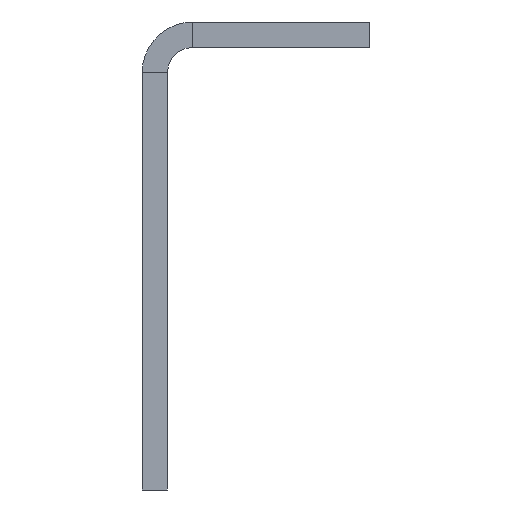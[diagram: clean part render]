
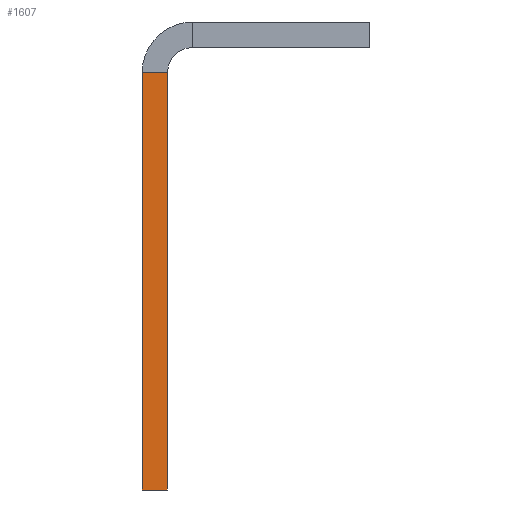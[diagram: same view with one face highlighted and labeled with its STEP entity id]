
A CAD part, left-side view. The second image highlights one B-rep face of the part: STEP entity #1607.
In plain terms, the highlighted planar face has unit normal (-1, 0, 0).
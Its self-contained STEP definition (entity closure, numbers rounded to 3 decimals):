
#12 = EDGE_CURVE ( 'NONE', #1645, #3033, #1158, .T. ) ;
#30 = CARTESIAN_POINT ( 'NONE',  ( -976., 16., 0. ) ) ;
#249 = EDGE_CURVE ( 'NONE', #1645, #4149, #4546, .T. ) ;
#349 = ORIENTED_EDGE ( 'NONE', *, *, #4187, .T. ) ;
#378 = VERTEX_POINT ( 'NONE', #1347 ) ;
#417 = DIRECTION ( 'NONE',  ( 0., 0., -1. ) ) ;
#428 = EDGE_LOOP ( 'NONE', ( #4280, #564, #718, #349 ) ) ;
#467 = DIRECTION ( 'NONE',  ( 0., 1., 0. ) ) ;
#564 = ORIENTED_EDGE ( 'NONE', *, *, #249, .T. ) ;
#679 = LINE ( 'NONE', #2185, #2815 ) ;
#718 = ORIENTED_EDGE ( 'NONE', *, *, #2404, .T. ) ;
#1155 = DIRECTION ( 'NONE',  ( 0., 0., -1. ) ) ;
#1158 = LINE ( 'NONE', #30, #4729 ) ;
#1178 = CARTESIAN_POINT ( 'NONE',  ( -976., 18., -37. ) ) ;
#1347 = CARTESIAN_POINT ( 'NONE',  ( -976., 18., -37. ) ) ;
#1470 = CARTESIAN_POINT ( 'NONE',  ( -976., 18., -4. ) ) ;
#1505 = CARTESIAN_POINT ( 'NONE',  ( -976., 14., -4. ) ) ;
#1607 = ADVANCED_FACE ( 'NONE', ( #2978 ), #3358, .F. ) ;
#1645 = VERTEX_POINT ( 'NONE', #1764 ) ;
#1764 = CARTESIAN_POINT ( 'NONE',  ( -976., 16., -4. ) ) ;
#2047 = VECTOR ( 'NONE', #3427, 1000. ) ;
#2185 = CARTESIAN_POINT ( 'NONE',  ( -976., 18., 0. ) ) ;
#2347 = VECTOR ( 'NONE', #467, 1000. ) ;
#2404 = EDGE_CURVE ( 'NONE', #4149, #378, #679, .T. ) ;
#2588 = DIRECTION ( 'NONE',  ( 0., 0., -1. ) ) ;
#2807 = AXIS2_PLACEMENT_3D ( 'NONE', #1505, #4450, #1155 ) ;
#2815 = VECTOR ( 'NONE', #2588, 1000. ) ;
#2978 = FACE_OUTER_BOUND ( 'NONE', #428, .T. ) ;
#3033 = VERTEX_POINT ( 'NONE', #3728 ) ;
#3358 = PLANE ( 'NONE',  #2807 ) ;
#3427 = DIRECTION ( 'NONE',  ( 0., -1., 0. ) ) ;
#3728 = CARTESIAN_POINT ( 'NONE',  ( -976., 16., -37. ) ) ;
#3783 = LINE ( 'NONE', #1178, #2047 ) ;
#3836 = CARTESIAN_POINT ( 'NONE',  ( -976., 16., -4. ) ) ;
#4149 = VERTEX_POINT ( 'NONE', #1470 ) ;
#4187 = EDGE_CURVE ( 'NONE', #378, #3033, #3783, .T. ) ;
#4280 = ORIENTED_EDGE ( 'NONE', *, *, #12, .F. ) ;
#4450 = DIRECTION ( 'NONE',  ( 1., 0., 0. ) ) ;
#4546 = LINE ( 'NONE', #3836, #2347 ) ;
#4729 = VECTOR ( 'NONE', #417, 1000. ) ;
